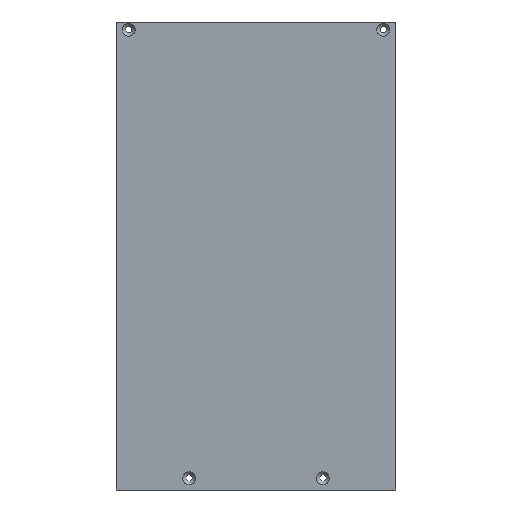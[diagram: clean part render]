
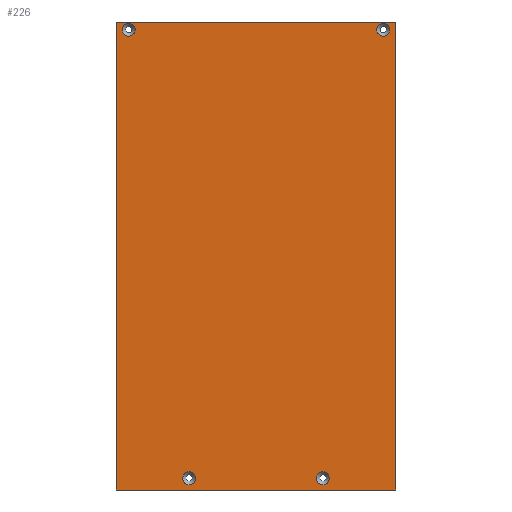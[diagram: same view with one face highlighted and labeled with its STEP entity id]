
A CAD part, top view. The second image highlights one B-rep face of the part: STEP entity #226.
In plain terms, the highlighted planar face has unit normal (0, -0.045, 0.999).
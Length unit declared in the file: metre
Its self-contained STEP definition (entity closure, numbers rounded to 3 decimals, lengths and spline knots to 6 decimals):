
#12=LINE('',#367,#24);
#21=LINE('',#386,#33);
#22=LINE('',#388,#34);
#23=LINE('',#390,#35);
#24=VECTOR('',#311,1.);
#33=VECTOR('',#324,1.);
#34=VECTOR('',#327,1.);
#35=VECTOR('',#330,1.);
#40=PLANE('',#265);
#82=ORIENTED_EDGE('',*,*,#95,.F.);
#83=ORIENTED_EDGE('',*,*,#98,.F.);
#84=ORIENTED_EDGE('',*,*,#101,.F.);
#85=ORIENTED_EDGE('',*,*,#104,.F.);
#86=ORIENTED_EDGE('',*,*,#115,.T.);
#87=ORIENTED_EDGE('',*,*,#117,.T.);
#88=ORIENTED_EDGE('',*,*,#106,.F.);
#89=ORIENTED_EDGE('',*,*,#116,.T.);
#95=EDGE_CURVE('',#119,#119,#139,.T.);
#98=EDGE_CURVE('',#122,#122,#142,.T.);
#101=EDGE_CURVE('',#125,#125,#145,.T.);
#104=EDGE_CURVE('',#128,#128,#148,.T.);
#106=EDGE_CURVE('',#130,#131,#12,.T.);
#115=EDGE_CURVE('',#136,#137,#21,.T.);
#116=EDGE_CURVE('',#130,#136,#22,.T.);
#117=EDGE_CURVE('',#137,#131,#23,.T.);
#119=VERTEX_POINT('',#338);
#122=VERTEX_POINT('',#346);
#125=VERTEX_POINT('',#354);
#128=VERTEX_POINT('',#362);
#130=VERTEX_POINT('',#368);
#131=VERTEX_POINT('',#369);
#136=VERTEX_POINT('',#383);
#137=VERTEX_POINT('',#385);
#139=CIRCLE('',#243,0.00336);
#142=CIRCLE('',#248,0.00336);
#145=CIRCLE('',#253,0.00336);
#148=CIRCLE('',#258,0.00336);
#174=EDGE_LOOP('',(#82));
#175=EDGE_LOOP('',(#83));
#176=EDGE_LOOP('',(#84));
#177=EDGE_LOOP('',(#85));
#178=EDGE_LOOP('',(#86,#87,#88,#89));
#204=FACE_BOUND('',#174,.T.);
#205=FACE_BOUND('',#175,.T.);
#206=FACE_BOUND('',#176,.T.);
#207=FACE_BOUND('',#177,.T.);
#208=FACE_BOUND('',#178,.T.);
#226=ADVANCED_FACE('',(#204,#205,#206,#207,#208),#40,.T.);
#243=AXIS2_PLACEMENT_3D('',#337,#273,#274);
#248=AXIS2_PLACEMENT_3D('',#345,#283,#284);
#253=AXIS2_PLACEMENT_3D('',#353,#293,#294);
#258=AXIS2_PLACEMENT_3D('',#361,#303,#304);
#265=AXIS2_PLACEMENT_3D('',#389,#328,#329);
#273=DIRECTION('',(0.,-0.045,0.999));
#274=DIRECTION('',(0.,0.999,0.045));
#283=DIRECTION('',(0.,-0.045,0.999));
#284=DIRECTION('',(0.,0.999,0.045));
#293=DIRECTION('',(0.,-0.045,0.999));
#294=DIRECTION('',(0.,0.999,0.045));
#303=DIRECTION('',(0.,-0.045,0.999));
#304=DIRECTION('',(0.,0.999,0.045));
#311=DIRECTION('',(1.,0.,0.));
#324=DIRECTION('',(1.,0.,0.));
#327=DIRECTION('',(0.,-0.999,-0.045));
#328=DIRECTION('',(0.,-0.045,0.999));
#329=DIRECTION('',(1.,0.,0.));
#330=DIRECTION('',(0.,0.999,0.045));
#337=CARTESIAN_POINT('',(0.066574,0.265638,0.071913));
#338=CARTESIAN_POINT('',(0.066574,0.268994,0.072064));
#345=CARTESIAN_POINT('',(-0.035,0.031081,0.061394));
#346=CARTESIAN_POINT('',(-0.035,0.034438,0.061544));
#353=CARTESIAN_POINT('',(0.035,0.031081,0.061394));
#354=CARTESIAN_POINT('',(0.035,0.034438,0.061544));
#361=CARTESIAN_POINT('',(-0.066574,0.265638,0.071913));
#362=CARTESIAN_POINT('',(-0.066574,0.268994,0.072064));
#367=CARTESIAN_POINT('',(-0.073,0.269638,0.072092));
#368=CARTESIAN_POINT('',(-0.073,0.269638,0.072092));
#369=CARTESIAN_POINT('',(0.073,0.269638,0.072092));
#383=CARTESIAN_POINT('',(-0.073,0.02491,0.061117));
#385=CARTESIAN_POINT('',(0.073,0.02491,0.061117));
#386=CARTESIAN_POINT('',(-0.073,0.02491,0.061117));
#388=CARTESIAN_POINT('',(-0.073,0.269638,0.072092));
#389=CARTESIAN_POINT('',(-0.073,0.269638,0.072092));
#390=CARTESIAN_POINT('',(0.073,0.02491,0.061117));
